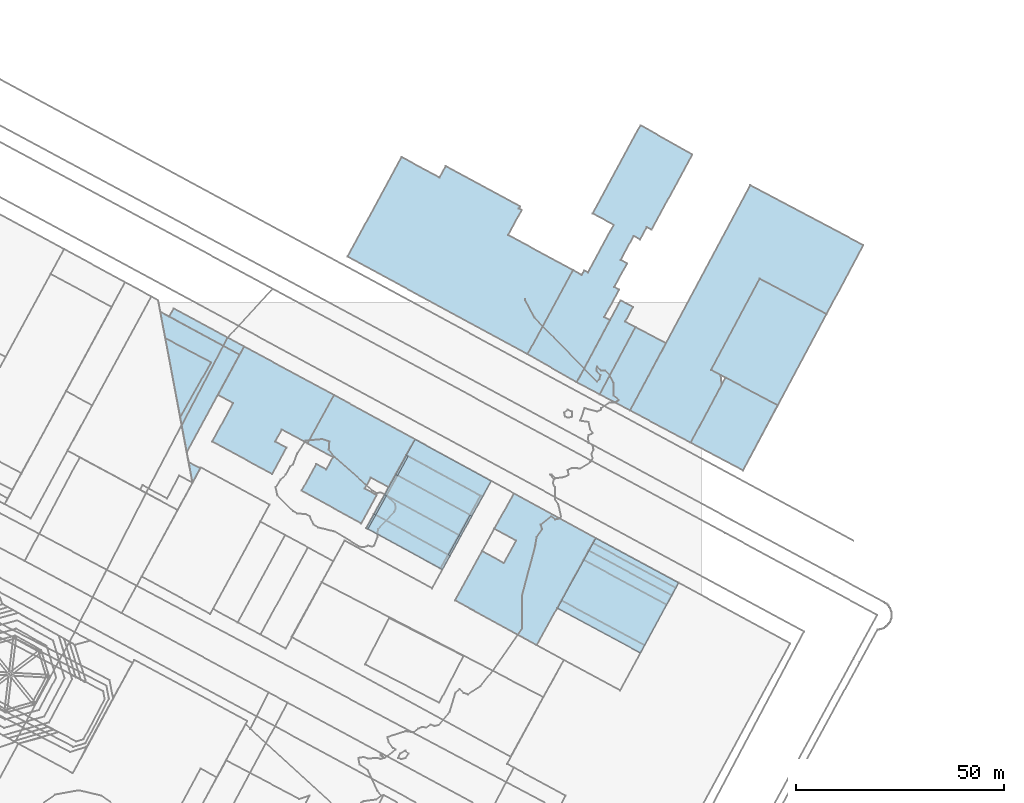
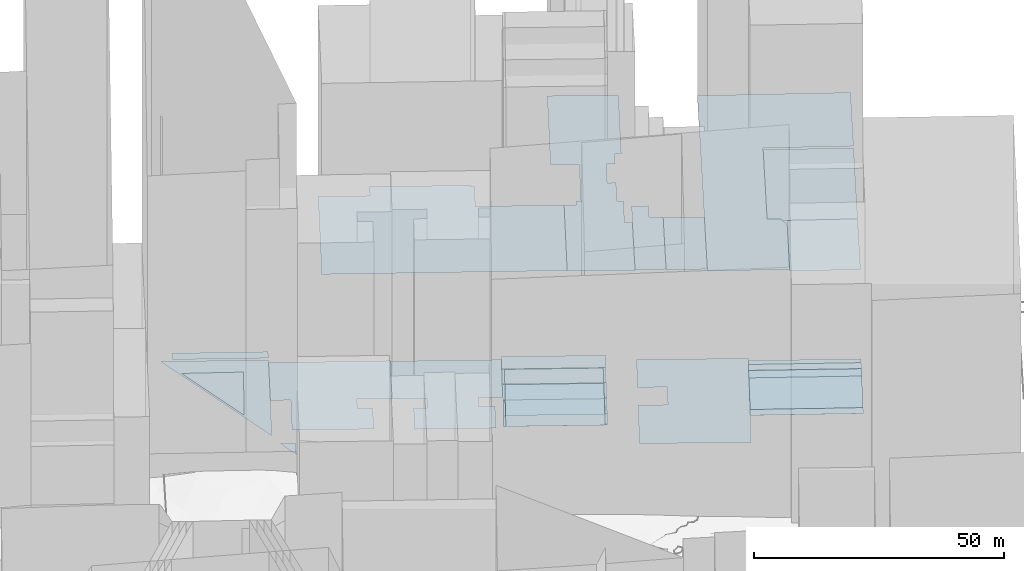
# Not in any storey, part 14 of 80: 33 footings.
"""IFC4 building model written with IfcOpenShell, lengths in metres."""

from ifc_helpers import new_model, si_unit, frame, origin_with_axes, place, context, subcontext, project, spatial, polygons, element, save


model = new_model("IFC4")

# Units and contexts
model_context = context("Model", 3, precision=1e-05, world=origin_with_axes())
body_context = subcontext(model_context, "Body", "Model", "MODEL_VIEW")
ifc_project = project(units=[si_unit("AREAUNIT", "SQUARE_METRE"), si_unit("LENGTHUNIT", "METRE")], contexts=[model_context])

# Sites, building
site_1_placement = place(None, origin_with_axes())
site_1 = spatial("IfcSite", under=ifc_project, at=site_1_placement, Name="Topoexport Site")
site_2_placement = place(site_1_placement, origin_with_axes())
site_2 = spatial("IfcSite", under=site_1, at=site_2_placement, Name="TPX_BATIMENTS")
building_1_placement = place(site_2_placement, frame((313.0644675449, 307.8623711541, 19.1866417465), z_axis=(0.0, 0.0, 1.0), x_axis=(1.0, 0.0, 0.0)))
building_1 = spatial("IfcBuilding", under=site_2, at=building_1_placement, Name="Batiment 133", CompositionType="ELEMENT")

# Footing
footing_1_placement = place(None, frame((313.0644675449, 307.8623711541, 19.1866417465), z_axis=(0.0, 0.0, 1.0), x_axis=(1.0, 0.0, 0.0)))
element("IfcFooting", 1, at=footing_1_placement, inside=building_1, Name="Sol 0", context=body_context, shape_type="Tessellation", body=[
    polygons([(0.0, 0.0, 0.0), (19.658559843, -10.751216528, 0.0), (33.8190454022, 14.9711235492, 0.0), (14.1606600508, 25.7112014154, 0.0), (9.4817474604, 17.2189943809, 0.0), (14.7234881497, 14.349038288, 0.0), (11.7557583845, 8.9631871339, 0.0), (6.5141444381, 11.8220445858, 0.0)], [[[2, 1, 8]], [[4, 3, 2]], [[6, 5, 4]], [[2, 8, 7]], [[6, 4, 2]], [[2, 7, 6]]]),
])

# Building
building_2_placement = place(site_2_placement, frame((337.6756915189, 306.0173396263, 18.6021443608), z_axis=(0.0, 0.0, 1.0), x_axis=(1.0, 0.0, 0.0)))
building_2 = spatial("IfcBuilding", under=site_2, at=building_2_placement, Name="Batiment 134", CompositionType="ELEMENT")

# Footing
footing_2_placement = place(None, frame((337.6756915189, 306.0173396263, 18.6021443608), z_axis=(0.0, 0.0, 1.0), x_axis=(1.0, 0.0, 0.0)))
element("IfcFooting", 2, at=footing_2_placement, inside=building_2, Name="Sol 0", context=body_context, shape_type="Tessellation", body=[
    polygons([(0.0, 0.0, 0.0), (19.9288194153, -10.7591061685, 0.0), (29.0941508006, 6.0787837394, 0.0), (9.2078214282, 16.816155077, 0.0)], [[[2, 1, 4]], [[4, 3, 2]]]),
])

# Building
building_3_placement = place(site_2_placement, frame((337.6756915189, 306.0173396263, 18.6175268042), z_axis=(0.0, 0.0, 1.0), x_axis=(1.0, 0.0, 0.0)))
building_3 = spatial("IfcBuilding", under=site_2, at=building_3_placement, Name="Batiment 135", CompositionType="ELEMENT")

# Footing
footing_3_placement = place(None, frame((337.6756915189, 306.0173396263, 18.6175268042), z_axis=(0.0, 0.0, 1.0), x_axis=(1.0, 0.0, 0.0)))
element("IfcFooting", 3, at=footing_3_placement, inside=building_3, Name="Sol 0", context=body_context, shape_type="Tessellation", body=[
    polygons([(0.0, 0.0, 0.0), (19.9288194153, -10.7591061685, 0.0), (20.9205700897, -8.9378836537, 0.0), (0.9833137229, 1.8211215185, 0.0)], [[[2, 1, 4]], [[4, 3, 2]]]),
])

# Building
building_4_placement = place(site_2_placement, frame((338.6590052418, 307.8384611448, 18.5825367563), z_axis=(0.0, 0.0, 1.0), x_axis=(1.0, 0.0, 0.0)))
building_4 = spatial("IfcBuilding", under=site_2, at=building_4_placement, Name="Batiment 136", CompositionType="ELEMENT")

# Footing
footing_4_placement = place(None, frame((338.6590052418, 307.8384611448, 18.5825367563), z_axis=(0.0, 0.0, 1.0), x_axis=(1.0, 0.0, 0.0)))
element("IfcFooting", 4, at=footing_4_placement, inside=building_4, Name="Sol 0", context=body_context, shape_type="Tessellation", body=[
    polygons([(0.0, 0.0, 0.0), (19.9372563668, -10.7590051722, 0.0), (25.2348095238, -1.0272163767, 0.0), (5.3058816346, 9.7429734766, 0.0)], [[[2, 1, 4]], [[4, 3, 2]]]),
])

# Building
building_5_placement = place(site_2_placement, frame((369.7036563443, 345.7479637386, 18.6004102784), z_axis=(0.0, 0.0, 1.0), x_axis=(1.0, 0.0, 0.0)))
building_5 = spatial("IfcBuilding", under=site_2, at=building_5_placement, Name="Batiment 225", CompositionType="ELEMENT")

# Footing
footing_5_placement = place(None, frame((369.7036563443, 345.7479637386, 18.6004102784), z_axis=(0.0, 0.0, 1.0), x_axis=(1.0, 0.0, 0.0)))
element("IfcFooting", 5, at=footing_5_placement, inside=building_5, Name="Sol 0", context=body_context, shape_type="Tessellation", body=[
    polygons([(0.0, 0.0, 0.0), (12.5538989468, -6.6594085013, 0.0), (20.9058219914, 8.9810939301, 0.0), (8.3520704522, 15.6293873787, 0.0)], [[[2, 1, 4]], [[4, 3, 2]]]),
])

# Building
building_6_placement = place(site_2_placement, frame((369.7036563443, 345.7479637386, 18.6004102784), z_axis=(0.0, 0.0, 1.0), x_axis=(1.0, 0.0, 0.0)))
building_6 = spatial("IfcBuilding", under=site_2, at=building_6_placement, Name="Batiment 226", CompositionType="ELEMENT")

# Footing
footing_6_placement = place(None, frame((369.7036563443, 345.7479637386, 18.6004102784), z_axis=(0.0, 0.0, 1.0), x_axis=(1.0, 0.0, 0.0)))
element("IfcFooting", 6, at=footing_6_placement, inside=building_6, Name="Sol 0", context=body_context, shape_type="Tessellation", body=[
    polygons([(0.0, 0.0, 0.0), (12.5538989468, -6.6594085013, 0.0), (32.6119575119, 30.8779721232, 0.0), (16.5756487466, 39.3841472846, 0.0), (4.8696102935, 17.4761939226, 0.0), (8.3520704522, 15.6293873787, 0.0)], [[[2, 1, 6]], [[4, 3, 2]], [[6, 5, 4]], [[4, 2, 6]]]),
])

# Building
building_7_placement = place(site_2_placement, frame((347.815184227, 357.3501845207, 19.4967408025), z_axis=(0.0, 0.0, 1.0), x_axis=(1.0, 0.0, 0.0)))
building_7 = spatial("IfcBuilding", under=site_2, at=building_7_placement, Name="Batiment 227", CompositionType="ELEMENT")

# Footing
footing_7_placement = place(None, frame((347.815184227, 357.3501845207, 19.4967408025), z_axis=(0.0, 0.0, 1.0), x_axis=(1.0, 0.0, 0.0)))
element("IfcFooting", 7, at=footing_7_placement, inside=building_7, Name="Sol 0", context=body_context, shape_type="Tessellation", body=[
    polygons([(0.0, 0.0, 0.0), (7.30458982, -3.8673156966, 0.0), (15.9293867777, 12.2648342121, 0.0), (8.6248078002, 16.13214132, 0.0)], [[[2, 1, 4]], [[4, 3, 2]]]),
])

# Building
building_8_placement = place(site_2_placement, frame((342.3281774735, 360.2616784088, 19.6845045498), z_axis=(0.0, 0.0, 1.0), x_axis=(1.0, 0.0, 0.0)))
building_8 = spatial("IfcBuilding", under=site_2, at=building_8_placement, Name="Batiment 228", CompositionType="ELEMENT")

# Footing
footing_8_placement = place(None, frame((342.3281774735, 360.2616784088, 19.6845045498), z_axis=(0.0, 0.0, 1.0), x_axis=(1.0, 0.0, 0.0)))
element("IfcFooting", 8, at=footing_8_placement, inside=building_8, Name="Sol 0", context=body_context, shape_type="Tessellation", body=[
    polygons([(0.0, 0.0, 0.0), (5.4870067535, -2.9114938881, 0.0), (14.1118145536, 13.2206474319, 0.0), (11.6146310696, 14.5460328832, 0.0), (13.4982515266, 18.0651895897, 0.0), (10.4999972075, 19.6511924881, 0.0)], [[[2, 1, 6]], [[4, 3, 2]], [[6, 5, 4]], [[4, 2, 6]]]),
])

# Building
building_9_placement = place(site_2_placement, frame((291.7498532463, 325.277922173, 20.2810071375), z_axis=(0.0, 0.0, 1.0), x_axis=(1.0, 0.0, 0.0)))
building_9 = spatial("IfcBuilding", under=site_2, at=building_9_placement, Name="Batiment 229", CompositionType="ELEMENT")

# Footing
footing_9_placement = place(None, frame((291.7498532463, 325.277922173, 20.2810071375), z_axis=(0.0, 0.0, 1.0), x_axis=(1.0, 0.0, 0.0)))
element("IfcFooting", 9, at=footing_9_placement, inside=building_9, Name="Sol 0", context=body_context, shape_type="Tessellation", body=[
    polygons([(0.0, 0.0, 0.0), (18.2821181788, -9.9901391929, 0.0), (29.9957941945, 11.2849631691, 0.0), (11.7137108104, 21.2750732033, 0.0)], [[[2, 1, 4]], [[4, 3, 2]]]),
])

# Building
building_10_placement = place(site_2_placement, frame((296.5802961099, 333.0835325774, 20.3677468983), z_axis=(0.0, 0.0, 1.0), x_axis=(1.0, 0.0, 0.0)))
building_10 = spatial("IfcBuilding", under=site_2, at=building_10_placement, Name="Batiment 230", CompositionType="ELEMENT")

# Footing
footing_10_placement = place(None, frame((296.5802961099, 333.0835325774, 20.3677468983), z_axis=(0.0, 0.0, 1.0), x_axis=(1.0, 0.0, 0.0)))
element("IfcFooting", 10, at=footing_10_placement, inside=building_10, Name="Sol 0", context=body_context, shape_type="Tessellation", body=[
    polygons([(0.0, 0.0, 0.0), (17.4583642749, -9.5667304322, 0.0), (20.0861254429, -4.7066486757, 0.0), (2.6876256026, 4.7941587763, 0.0)], [[[2, 1, 4]], [[4, 3, 2]]]),
])

# Building
building_11_placement = place(site_2_placement, frame((292.1322472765, 325.0603282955, 20.29910505), z_axis=(0.0, 0.0, 1.0), x_axis=(1.0, 0.0, 0.0)))
building_11 = spatial("IfcBuilding", under=site_2, at=building_11_placement, Name="Batiment 231", CompositionType="ELEMENT")

# Footing
footing_11_placement = place(None, frame((292.1322472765, 325.0603282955, 20.29910505), z_axis=(0.0, 0.0, 1.0), x_axis=(1.0, 0.0, 0.0)))
element("IfcFooting", 11, at=footing_11_placement, inside=building_11, Name="Sol 0", context=body_context, shape_type="Tessellation", body=[
    polygons([(0.0, 0.0, 0.0), (17.4495487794, -9.5335370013, 0.0), (27.0802443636, 7.9425396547, 0.0), (9.6733115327, 17.4432428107, 0.0)], [[[2, 1, 4]], [[4, 3, 2]]]),
])

# Building
building_12_placement = place(site_2_placement, frame((294.0094084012, 328.4128587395, 20.2723875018), z_axis=(0.0, 0.0, 1.0), x_axis=(1.0, 0.0, 0.0)))
building_12 = spatial("IfcBuilding", under=site_2, at=building_12_placement, Name="Batiment 232", CompositionType="ELEMENT")

# Footing
footing_12_placement = place(None, frame((294.0094084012, 328.4128587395, 20.2723875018), z_axis=(0.0, 0.0, 1.0), x_axis=(1.0, 0.0, 0.0)))
element("IfcFooting", 12, at=footing_12_placement, inside=building_12, Name="Sol 0", context=body_context, shape_type="Tessellation", body=[
    polygons([(0.0, 0.0, 0.0), (17.4333093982, -9.5892328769, 0.0), (22.6570131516, -0.0359748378, 0.0), (5.2585133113, 9.4648326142, 0.0)], [[[2, 1, 4]], [[4, 3, 2]]]),
])

# Building
building_13_placement = place(site_2_placement, frame((296.1724525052, 333.3119322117, 20.3484595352), z_axis=(0.0, 0.0, 1.0), x_axis=(1.0, 0.0, 0.0)))
building_13 = spatial("IfcBuilding", under=site_2, at=building_13_placement, Name="Batiment 233", CompositionType="ELEMENT")

# Footing
footing_13_placement = place(None, frame((296.1724525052, 333.3119322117, 20.3484595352), z_axis=(0.0, 0.0, 1.0), x_axis=(1.0, 0.0, 0.0)))
element("IfcFooting", 13, at=footing_13_placement, inside=building_13, Name="Sol 0", context=body_context, shape_type="Tessellation", body=[
    polygons([(0.0, 0.0, 0.0), (0.4078436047, -0.2283996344, 0.0), (3.0954692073, 4.5657591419, 0.0), (2.6536065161, 4.8159671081, 0.0)], [[[2, 1, 4]], [[4, 3, 2]]]),
])

# Building
building_14_placement = place(site_2_placement, frame((298.8260590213, 338.1278993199, 20.4512900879), z_axis=(0.0, 0.0, 1.0), x_axis=(1.0, 0.0, 0.0)))
building_14 = spatial("IfcBuilding", under=site_2, at=building_14_placement, Name="Batiment 234", CompositionType="ELEMENT")

# Footing
footing_14_placement = place(None, frame((298.8260590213, 338.1278993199, 20.4512900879), z_axis=(0.0, 0.0, 1.0), x_axis=(1.0, 0.0, 0.0)))
element("IfcFooting", 14, at=footing_14_placement, inside=building_14, Name="Sol 0", context=body_context, shape_type="Tessellation", body=[
    polygons([(0.0, 0.0, 0.0), (0.4418626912, -0.2502079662, 0.0), (2.9794997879, 4.3756717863, 0.0), (2.5462067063, 4.6148771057, 0.0)], [[[2, 1, 4]], [[4, 3, 2]]]),
])

# Building
building_15_placement = place(site_2_placement, frame((301.3722657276, 342.7427764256, 20.3932714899), z_axis=(0.0, 0.0, 1.0), x_axis=(1.0, 0.0, 0.0)))
building_15 = spatial("IfcBuilding", under=site_2, at=building_15_placement, Name="Batiment 235", CompositionType="ELEMENT")

# Footing
footing_15_placement = place(None, frame((301.3722657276, 342.7427764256, 20.3932714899), z_axis=(0.0, 0.0, 1.0), x_axis=(1.0, 0.0, 0.0)))
element("IfcFooting", 15, at=footing_15_placement, inside=building_15, Name="Sol 0", context=body_context, shape_type="Tessellation", body=[
    polygons([(0.0, 0.0, 0.0), (18.2820896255, -9.9901152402, 0.0), (20.3733817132, -6.1798910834, 0.0), (2.0912983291, 3.8102189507, 0.0)], [[[2, 1, 4]], [[4, 3, 2]]]),
])

# Building
building_16_placement = place(site_2_placement, frame((287.2771431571, 390.440545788, 19.5504613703), z_axis=(0.0, 0.0, 1.0), x_axis=(1.0, 0.0, 0.0)))
building_16 = spatial("IfcBuilding", under=site_2, at=building_16_placement, Name="Batiment 236", CompositionType="ELEMENT")

# Footing
footing_16_placement = place(None, frame((287.2771431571, 390.440545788, 19.5504613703), z_axis=(0.0, 0.0, 1.0), x_axis=(1.0, 0.0, 0.0)))
element("IfcFooting", 16, at=footing_16_placement, inside=building_16, Name="Sol 0", context=body_context, shape_type="Tessellation", body=[
    polygons([(0.0, 0.0, 0.0), (43.2307270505, -23.4442358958, 0.0), (54.1635554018, -3.2662126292, 0.0), (38.558435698, 5.1896020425, 0.0), (41.8392282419, 11.2341347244, 0.0), (41.1511824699, 11.603598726, 0.0), (41.4073966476, 12.0728777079, 0.0), (23.5851064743, 21.7352532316, 0.0), (22.0893707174, 18.9755783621, 0.0), (12.9658813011, 23.9208852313, 0.0)], [[[2, 1, 10]], [[4, 3, 2]], [[6, 5, 4]], [[8, 7, 6]], [[2, 10, 9]], [[8, 6, 4]], [[2, 9, 8]], [[8, 4, 2]]]),
])

# Building
building_17_placement = place(site_2_placement, frame((330.5078702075, 366.9963098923, 19.4574403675), z_axis=(0.0, 0.0, 1.0), x_axis=(1.0, 0.0, 0.0)))
building_17 = spatial("IfcBuilding", under=site_2, at=building_17_placement, Name="Batiment 237", CompositionType="ELEMENT")

# Footing
footing_17_placement = place(None, frame((330.5078702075, 366.9963098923, 19.4574403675), z_axis=(0.0, 0.0, 1.0), x_axis=(1.0, 0.0, 0.0)))
element("IfcFooting", 17, at=footing_17_placement, inside=building_17, Name="Sol 0", context=body_context, shape_type="Tessellation", body=[
    polygons([(0.0, 0.0, 0.0), (11.820307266, -6.7346314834, 0.0), (19.7924457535, 8.1797535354, 0.0), (18.4247873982, 8.9187760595, 0.0), (22.0029504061, 15.5218964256, 0.0), (20.8307096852, 16.1521722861, 0.0), (23.9048809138, 21.8168325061, 0.0), (22.3588177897, 22.6536963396, 0.0), (25.4824619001, 28.4188540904, 0.0), (27.0285242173, 27.5819909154, 0.0), (28.6399501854, 30.5539667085, 0.0), (29.8037492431, 29.9235937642, 0.0), (39.5792805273, 47.9898524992, 0.0), (27.1227912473, 54.9945837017, 0.0), (15.6529613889, 33.8221759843, 0.0), (20.6989844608, 31.0831847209, 0.0), (14.5094742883, 19.6645705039, 0.0), (13.6345794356, 20.1317770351, 0.0), (13.0395606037, 19.036824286, 0.0), (10.9328283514, 20.1780232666, 0.0)], [[[2, 1, 20]], [[4, 3, 2]], [[6, 5, 4]], [[8, 7, 6]], [[11, 10, 9]], [[13, 12, 11]], [[15, 14, 13]], [[19, 18, 17]], [[2, 20, 19]], [[6, 4, 2]], [[13, 11, 9]], [[16, 15, 13]], [[2, 19, 17]], [[8, 6, 2]], [[16, 13, 9]], [[2, 17, 16]], [[16, 9, 8]], [[8, 2, 16]]]),
])

# Building
building_18_placement = place(site_2_placement, frame((355.1197740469, 353.4828688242, 19.0004593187), z_axis=(0.0, 0.0, 1.0), x_axis=(1.0, 0.0, 0.0)))
building_18 = spatial("IfcBuilding", under=site_2, at=building_18_placement, Name="Batiment 238", CompositionType="ELEMENT")

# Footing
footing_18_placement = place(None, frame((355.1197740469, 353.4828688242, 19.0004593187), z_axis=(0.0, 0.0, 1.0), x_axis=(1.0, 0.0, 0.0)))
element("IfcFooting", 18, at=footing_18_placement, inside=building_18, Name="Sol 0", context=body_context, shape_type="Tessellation", body=[
    polygons([(0.0, 0.0, 0.0), (14.5838822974, -7.7349050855, 0.0), (22.0519980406, 6.2410466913, 0.0), (21.7807161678, 8.5138501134, 0.0), (19.4534925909, 9.741288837, 0.0), (31.159531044, 31.649242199, 0.0), (47.1958398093, 23.1430670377, 0.0), (56.0517837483, 39.7109589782, 0.0), (28.9225776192, 54.1052639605, 0.0)], [[[2, 1, 9]], [[4, 3, 2]], [[8, 7, 6]], [[5, 4, 2]], [[9, 8, 6]], [[5, 2, 9]], [[9, 6, 5]]]),
])

# Building
building_19_placement = place(site_2_placement, frame((244.4280234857, 376.0307569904, 22.4522062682), z_axis=(0.0, 0.0, 1.0), x_axis=(1.0, 0.0, 0.0)))
building_19 = spatial("IfcBuilding", under=site_2, at=building_19_placement, Name="Batiment 240", CompositionType="ELEMENT")

# Footing
footing_19_placement = place(None, frame((244.4280234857, 376.0307569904, 22.4522062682), z_axis=(0.0, 0.0, 1.0), x_axis=(1.0, 0.0, 0.0)))
element("IfcFooting", 19, at=footing_19_placement, inside=building_19, Name="Sol 0", context=body_context, shape_type="Tessellation", body=[
    polygons([(0.0, 0.0, 0.0), (16.9132443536, -9.1624091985, 0.0), (17.9876011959, -7.1848068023, 0.0), (1.0744890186, 1.9664991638, 0.0)], [[[2, 1, 4]], [[4, 3, 2]]]),
])

# Building
building_20_placement = place(site_2_placement, frame((242.3300029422, 377.1498806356, 22.0498553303), z_axis=(0.0, 0.0, 1.0), x_axis=(1.0, 0.0, 0.0)))
building_20 = spatial("IfcBuilding", under=site_2, at=building_20_placement, Name="Batiment 241", CompositionType="ELEMENT")

# Footing
footing_20_placement = place(None, frame((242.3300029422, 377.1498806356, 22.0498553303), z_axis=(0.0, 0.0, 1.0), x_axis=(1.0, 0.0, 0.0)))
element("IfcFooting", 20, at=footing_20_placement, inside=building_20, Name="Sol 0", context=body_context, shape_type="Tessellation", body=[
    polygons([(0.0, 0.0, 0.0), (1.1962854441, -6.3254728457, 0.0), (6.3508708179, -33.6325728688, 0.0), (19.0112648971, -10.2815328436, 0.0)], [[[2, 1, 4]], [[4, 3, 2]]]),
])

# Building
building_21_placement = place(site_2_placement, frame((243.5262883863, 370.8244077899, 22.5439694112), z_axis=(0.0, 0.0, 1.0), x_axis=(1.0, 0.0, 0.0)))
building_21 = spatial("IfcBuilding", under=site_2, at=building_21_placement, Name="Batiment 242", CompositionType="ELEMENT")

# Footing
footing_21_placement = place(None, frame((243.5262883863, 370.8244077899, 22.5439694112), z_axis=(0.0, 0.0, 1.0), x_axis=(1.0, 0.0, 0.0)))
element("IfcFooting", 21, at=footing_21_placement, inside=building_21, Name="Sol 0", context=body_context, shape_type="Tessellation", body=[
    polygons([(0.0, 0.0, 0.0), (3.5714703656, -18.9322105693, 0.0), (10.9734042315, -5.7787257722, 0.0)], [[[2, 1, 3]]]),
])

# Building
building_22_placement = place(site_2_placement, frame((254.7632851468, 346.0194741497, 19.7596316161), z_axis=(0.0, 0.0, 1.0), x_axis=(1.0, 0.0, 0.0)))
building_22 = spatial("IfcBuilding", under=site_2, at=building_22_placement, Name="Batiment 243", CompositionType="ELEMENT")

# Footing
footing_22_placement = place(None, frame((254.7632851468, 346.0194741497, 19.7596316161), z_axis=(0.0, 0.0, 1.0), x_axis=(1.0, 0.0, 0.0)))
element("IfcFooting", 22, at=footing_22_placement, inside=building_22, Name="Sol 0", context=body_context, shape_type="Tessellation", body=[
    polygons([(0.0, 0.0, 0.0), (14.39900645, -7.8149674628, 0.0), (17.8285654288, -1.4911744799, 0.0), (15.1187039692, -0.0239066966, 0.0), (16.7053721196, 2.9033513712, 0.0), (22.8641716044, -0.4333637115, 0.0), (29.2543177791, 11.1651612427, 0.0), (7.6523395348, 22.8264760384, 0.0), (1.3634529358, 11.2291484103, 0.0), (5.0248078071, 9.2400392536, 0.0)], [[[2, 1, 10]], [[4, 3, 2]], [[7, 6, 5]], [[9, 8, 7]], [[4, 2, 10]], [[9, 7, 5]], [[5, 4, 10]], [[10, 9, 5]]]),
])

# Building
building_23_placement = place(site_2_placement, frame((276.2236412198, 334.2010560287, 19.6540468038), z_axis=(0.0, 0.0, 1.0), x_axis=(1.0, 0.0, 0.0)))
building_23 = spatial("IfcBuilding", under=site_2, at=building_23_placement, Name="Batiment 244", CompositionType="ELEMENT")

# Footing
footing_23_placement = place(None, frame((276.2236412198, 334.2010560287, 19.6540468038), z_axis=(0.0, 0.0, 1.0), x_axis=(1.0, 0.0, 0.0)))
element("IfcFooting", 23, at=footing_23_placement, inside=building_23, Name="Sol 0", context=body_context, shape_type="Tessellation", body=[
    polygons([(0.0, 0.0, 0.0), (14.3402296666, -7.8378155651, 0.0), (18.0600146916, -1.0665434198, 0.0), (15.1800483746, 0.5097591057, 0.0), (16.6432091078, 3.1691298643, 0.0), (20.9078444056, 0.8428913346, 0.0), (27.2399228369, 12.3519393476, 0.0), (7.7939617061, 22.9835793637, 0.0), (1.4038155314, 11.3850544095, 0.0), (7.5291182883, 8.0257498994, 0.0), (5.9419365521, 5.1428922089, 0.0), (3.554736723, 6.4473781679, 0.0)], [[[2, 1, 12]], [[4, 3, 2]], [[7, 6, 5]], [[9, 8, 7]], [[2, 12, 11]], [[9, 7, 5]], [[2, 11, 10]], [[10, 9, 5]], [[4, 2, 10]], [[10, 5, 4]]]),
])

# Building
building_24_placement = place(site_2_placement, frame((249.1568769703, 341.0581442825, 21.493715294), z_axis=(0.0, 0.0, 1.0), x_axis=(1.0, 0.0, 0.0)))
building_24 = spatial("IfcBuilding", under=site_2, at=building_24_placement, Name="Batiment 245", CompositionType="ELEMENT")

# Footing
footing_24_placement = place(None, frame((249.1568769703, 341.0581442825, 21.493715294), z_axis=(0.0, 0.0, 1.0), x_axis=(1.0, 0.0, 0.0)))
element("IfcFooting", 24, at=footing_24_placement, inside=building_24, Name="Sol 0", context=body_context, shape_type="Tessellation", body=[
    polygons([(0.0, 0.0, 0.0), (0.8846148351, -4.9302132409, 0.0), (2.7518015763, -1.444582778, 0.0)], [[[2, 1, 3]]]),
])

# Building
building_25_placement = place(site_2_placement, frame((309.5817960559, 315.5267912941, 20.5242060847), z_axis=(0.0, 0.0, 1.0), x_axis=(1.0, 0.0, 0.0)))
building_25 = spatial("IfcBuilding", under=site_2, at=building_25_placement, Name="Batiment 266", CompositionType="ELEMENT")

# Footing
footing_25_placement = place(None, frame((309.5817960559, 315.5267912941, 20.5242060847), z_axis=(0.0, 0.0, 1.0), x_axis=(1.0, 0.0, 0.0)))
element("IfcFooting", 25, at=footing_25_placement, inside=building_25, Name="Sol 0", context=body_context, shape_type="Tessellation", body=[
    polygons([(0.0, 0.0, 0.0), (0.4501753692, -0.239008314, 0.0), (2.2853885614, 3.0908338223, 0.0), (1.8609217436, 3.2968345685, 0.0)], [[[2, 1, 4]], [[4, 3, 2]]]),
])

# Building
building_26_placement = place(site_2_placement, frame((343.9648868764, 317.5814346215, 18.5825367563), z_axis=(0.0, 0.0, 1.0), x_axis=(1.0, 0.0, 0.0)))
building_26 = spatial("IfcBuilding", under=site_2, at=building_26_placement, Name="Batiment 267", CompositionType="ELEMENT")

# Footing
footing_26_placement = place(None, frame((343.9648868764, 317.5814346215, 18.5825367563), z_axis=(0.0, 0.0, 1.0), x_axis=(1.0, 0.0, 0.0)))
element("IfcFooting", 26, at=footing_26_placement, inside=building_26, Name="Sol 0", context=body_context, shape_type="Tessellation", body=[
    polygons([(0.0, 0.0, 0.0), (19.9289278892, -10.7701898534, 0.0), (21.1603982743, -8.513185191, 0.0), (1.2230342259, 2.2569030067, 0.0)], [[[2, 1, 4]], [[4, 3, 2]]]),
])

# Building
building_27_placement = place(site_2_placement, frame((345.1879211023, 319.8383376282, 18.6172280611), z_axis=(0.0, 0.0, 1.0), x_axis=(1.0, 0.0, 0.0)))
building_27 = spatial("IfcBuilding", under=site_2, at=building_27_placement, Name="Batiment 268", CompositionType="ELEMENT")

# Footing
footing_27_placement = place(None, frame((345.1879211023, 319.8383376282, 18.6172280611), z_axis=(0.0, 0.0, 1.0), x_axis=(1.0, 0.0, 0.0)))
element("IfcFooting", 27, at=footing_27_placement, inside=building_27, Name="Sol 0", context=body_context, shape_type="Tessellation", body=[
    polygons([(0.0, 0.0, 0.0), (19.9373640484, -10.7700881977, 0.0), (20.9208000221, -8.9600636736, 0.0), (1.0344684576, 1.777309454, 0.0)], [[[2, 1, 4]], [[4, 3, 2]]]),
])

# Building
building_28_placement = place(site_2_placement, frame((346.2223895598, 321.6156470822, 18.6021443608), z_axis=(0.0, 0.0, 1.0), x_axis=(1.0, 0.0, 0.0)))
building_28 = spatial("IfcBuilding", under=site_2, at=building_28_placement, Name="Batiment 269", CompositionType="ELEMENT")

# Footing
footing_28_placement = place(None, frame((346.2223895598, 321.6156470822, 18.6021443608), z_axis=(0.0, 0.0, 1.0), x_axis=(1.0, 0.0, 0.0)))
element("IfcFooting", 28, at=footing_28_placement, inside=building_28, Name="Sol 0", context=body_context, shape_type="Tessellation", body=[
    polygons([(0.0, 0.0, 0.0), (19.8863315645, -10.7373731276, 0.0), (20.5474527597, -9.5195237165, 0.0), (0.6611233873, 1.2178476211, 0.0)], [[[2, 1, 4]], [[4, 3, 2]]]),
])

# Building
building_29_placement = place(site_2_placement, frame((316.6664215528, 328.3768839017, 20.4318162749), z_axis=(0.0, 0.0, 1.0), x_axis=(1.0, 0.0, 0.0)))
building_29 = spatial("IfcBuilding", under=site_2, at=building_29_placement, Name="Batiment 270", CompositionType="ELEMENT")

# Footing
footing_29_placement = place(None, frame((316.6664215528, 328.3768839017, 20.4318162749), z_axis=(0.0, 0.0, 1.0), x_axis=(1.0, 0.0, 0.0)))
element("IfcFooting", 29, at=footing_29_placement, inside=building_29, Name="Sol 0", context=body_context, shape_type="Tessellation", body=[
    polygons([(0.0, 0.0, 0.0), (0.4417346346, -0.2391061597, 0.0), (2.9879338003, 4.3757772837, 0.0), (2.5460700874, 4.6259840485, 0.0)], [[[2, 1, 4]], [[4, 3, 2]]]),
])

# Building
building_30_placement = place(site_2_placement, frame((311.4427177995, 318.8236258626, 20.4862365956), z_axis=(0.0, 0.0, 1.0), x_axis=(1.0, 0.0, 0.0)))
building_30 = spatial("IfcBuilding", under=site_2, at=building_30_placement, Name="Batiment 271", CompositionType="ELEMENT")

# Footing
footing_30_placement = place(None, frame((311.4427177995, 318.8236258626, 20.4862365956), z_axis=(0.0, 0.0, 1.0), x_axis=(1.0, 0.0, 0.0)))
element("IfcFooting", 30, at=footing_30_placement, inside=building_30, Name="Sol 0", context=body_context, shape_type="Tessellation", body=[
    polygons([(0.0, 0.0, 0.0), (0.4244668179, -0.2060007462, 0.0), (3.003658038, 4.4758783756, 0.0), (2.5959425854, 4.6931762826, 0.0)], [[[2, 1, 4]], [[4, 3, 2]]]),
])

# Building
building_31_placement = place(site_2_placement, frame((314.0386603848, 323.5168021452, 20.4684876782), z_axis=(0.0, 0.0, 1.0), x_axis=(1.0, 0.0, 0.0)))
building_31 = spatial("IfcBuilding", under=site_2, at=building_31_placement, Name="Batiment 272", CompositionType="ELEMENT")

# Footing
footing_31_placement = place(None, frame((314.0386603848, 323.5168021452, 20.4684876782), z_axis=(0.0, 0.0, 1.0), x_axis=(1.0, 0.0, 0.0)))
element("IfcFooting", 31, at=footing_31_placement, inside=building_31, Name="Sol 0", context=body_context, shape_type="Tessellation", body=[
    polygons([(0.0, 0.0, 0.0), (0.4077154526, -0.217297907, 0.0), (3.0694958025, 4.6209755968, 0.0), (2.6277611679, 4.8600817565, 0.0)], [[[2, 1, 4]], [[4, 3, 2]]]),
])

# Building
building_32_placement = place(site_2_placement, frame((293.5849426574, 328.6188604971, 20.2483066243), z_axis=(0.0, 0.0, 1.0), x_axis=(1.0, 0.0, 0.0)))
building_32 = spatial("IfcBuilding", under=site_2, at=building_32_placement, Name="Batiment 273", CompositionType="ELEMENT")

# Footing
footing_32_placement = place(None, frame((293.5849426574, 328.6188604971, 20.2483066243), z_axis=(0.0, 0.0, 1.0), x_axis=(1.0, 0.0, 0.0)))
element("IfcFooting", 32, at=footing_32_placement, inside=building_32, Name="Sol 0", context=body_context, shape_type="Tessellation", body=[
    polygons([(0.0, 0.0, 0.0), (0.4244657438, -0.2060017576, 0.0), (2.9953534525, 4.4646720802, 0.0), (2.5875098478, 4.6930717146, 0.0)], [[[2, 1, 4]], [[4, 3, 2]]]),
])

# Building
building_33_placement = place(site_2_placement, frame((291.7498532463, 325.277922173, 20.2483066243), z_axis=(0.0, 0.0, 1.0), x_axis=(1.0, 0.0, 0.0)))
building_33 = spatial("IfcBuilding", under=site_2, at=building_33_placement, Name="Batiment 274", CompositionType="ELEMENT")

# Footing
footing_33_placement = place(None, frame((291.7498532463, 325.277922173, 20.2483066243), z_axis=(0.0, 0.0, 1.0), x_axis=(1.0, 0.0, 0.0)))
element("IfcFooting", 33, at=footing_33_placement, inside=building_33, Name="Sol 0", context=body_context, shape_type="Tessellation", body=[
    polygons([(0.0, 0.0, 0.0), (0.3823940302, -0.2175938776, 0.0), (2.2595551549, 3.1349365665, 0.0), (1.8350894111, 3.3409383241, 0.0)], [[[2, 1, 4]], [[4, 3, 2]]]),
])

save(model, "model.ifc")
